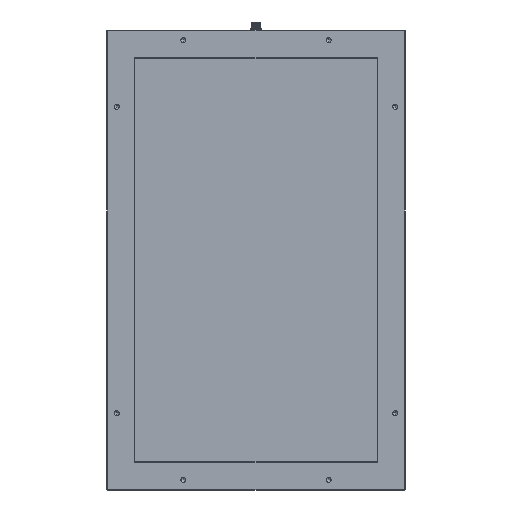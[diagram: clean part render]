
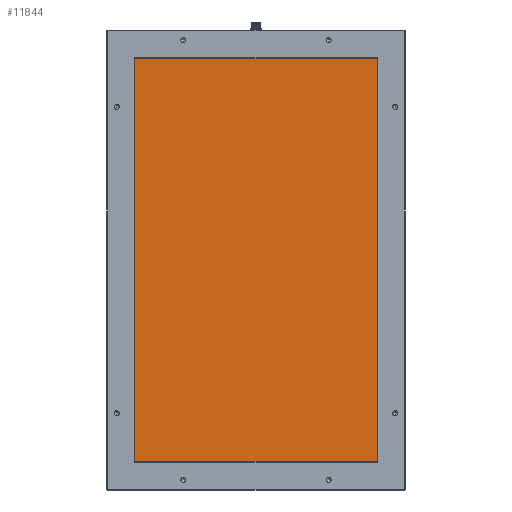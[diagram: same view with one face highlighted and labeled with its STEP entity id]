
A CAD part, front view. The second image highlights one B-rep face of the part: STEP entity #11844.
In plain terms, the highlighted planar face has unit normal (0, -1, 0).
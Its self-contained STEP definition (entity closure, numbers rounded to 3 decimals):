
#1582 = DIRECTION ( 'NONE',  ( 0., -1., 0. ) ) ;
#1590 = PLANE ( 'NONE',  #16749 ) ;
#1596 = DIRECTION ( 'NONE',  ( 0., 0., -1. ) ) ;
#1598 = CARTESIAN_POINT ( 'NONE',  ( 150., 0., -250. ) ) ;
#2899 = ORIENTED_EDGE ( 'NONE', *, *, #10681, .F. ) ;
#2928 = ORIENTED_EDGE ( 'NONE', *, *, #10670, .F. ) ;
#2930 = ORIENTED_EDGE ( 'NONE', *, *, #10716, .F. ) ;
#3019 = ORIENTED_EDGE ( 'NONE', *, *, #10730, .F. ) ;
#8591 = EDGE_LOOP ( 'NONE', ( #2928, #2930, #2899, #3019 ) ) ;
#9690 = CARTESIAN_POINT ( 'NONE',  ( -150., 0., -250. ) ) ;
#9717 = CARTESIAN_POINT ( 'NONE',  ( -150., 0., 250. ) ) ;
#9718 = CARTESIAN_POINT ( 'NONE',  ( 150., 0., -250. ) ) ;
#9731 = CARTESIAN_POINT ( 'NONE',  ( 150., 0., 250. ) ) ;
#10057 = DIRECTION ( 'NONE',  ( 0., 0., -1. ) ) ;
#10089 = CARTESIAN_POINT ( 'NONE',  ( 150., 0., 250. ) ) ;
#10114 = CARTESIAN_POINT ( 'NONE',  ( -150., 0., 250. ) ) ;
#10133 = DIRECTION ( 'NONE',  ( 0., 0., 1. ) ) ;
#10288 = VERTEX_POINT ( 'NONE', #9731 ) ;
#10291 = VERTEX_POINT ( 'NONE', #9717 ) ;
#10292 = VERTEX_POINT ( 'NONE', #9690 ) ;
#10295 = VERTEX_POINT ( 'NONE', #9718 ) ;
#10670 = EDGE_CURVE ( 'NONE', #10288, #10295, #14211, .T. ) ;
#10681 = EDGE_CURVE ( 'NONE', #10292, #10291, #14194, .T. ) ;
#10716 = EDGE_CURVE ( 'NONE', #10291, #10288, #14254, .T. ) ;
#10730 = EDGE_CURVE ( 'NONE', #10295, #10292, #14313, .T. ) ;
#11844 = ADVANCED_FACE ( 'NONE', ( #17823 ), #1590, .T. ) ;
#14188 = VECTOR ( 'NONE', #10057, 1000. ) ;
#14194 = LINE ( 'NONE', #10114, #14197 ) ;
#14197 = VECTOR ( 'NONE', #10133, 1000. ) ;
#14211 = LINE ( 'NONE', #10089, #14188 ) ;
#14254 = LINE ( 'NONE', #15796, #14276 ) ;
#14276 = VECTOR ( 'NONE', #15788, 1000. ) ;
#14278 = VECTOR ( 'NONE', #15820, 1000. ) ;
#14313 = LINE ( 'NONE', #15828, #14278 ) ;
#15788 = DIRECTION ( 'NONE',  ( 1., 0., 0. ) ) ;
#15796 = CARTESIAN_POINT ( 'NONE',  ( -150., 0., 250. ) ) ;
#15820 = DIRECTION ( 'NONE',  ( -1., 0., 0. ) ) ;
#15828 = CARTESIAN_POINT ( 'NONE',  ( -150., 0., -250. ) ) ;
#16749 = AXIS2_PLACEMENT_3D ( 'NONE', #1598, #1582, #1596 ) ;
#17823 = FACE_OUTER_BOUND ( 'NONE', #8591, .T. ) ;
